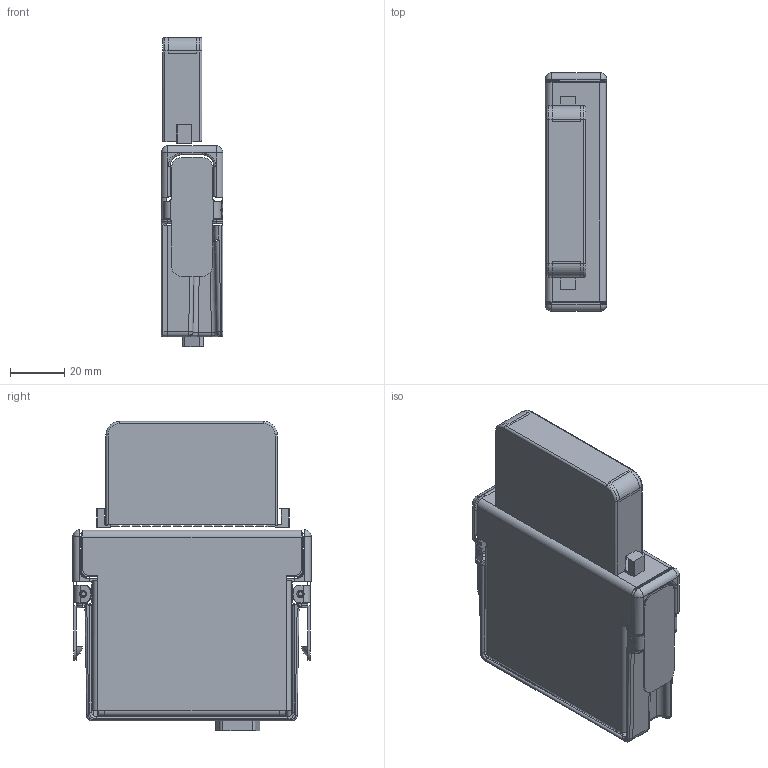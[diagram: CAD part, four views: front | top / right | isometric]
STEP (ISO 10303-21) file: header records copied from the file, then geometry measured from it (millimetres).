
FILE_DESCRIPTION((''),'2;1');
FILE_NAME('CU_NI-9436','2016-11-17T',('kleong'),(''),'CREO PARAMETRIC BY PTC INC, 2015380','CREO PARAMETRIC BY PTC INC, 2015380','');
FILE_SCHEMA(('CONFIG_CONTROL_DESIGN'));
Length unit declared in the file: inch
Products named in the file (1): CU_NI-9436
Bounding box: 22.86 x 88.11 x 114.27 mm (x, y, z)
Surface area: 29593.5 mm2 (no closed solid volume)
Topology: 0 solids, 34 shells, 230 faces, 993 edges, 776 vertices
Faces by surface type: cylinder 90, plane 80, bspline 38, torus 10, sphere 6, cone 6
Entity records: 12398 total; most frequent: CARTESIAN_POINT 4961, DIRECTION 1455, ORIENTED_EDGE 1311, EDGE_CURVE 989, VERTEX_POINT 776, VECTOR 501, LINE 501, AXIS2_PLACEMENT_3D 477
